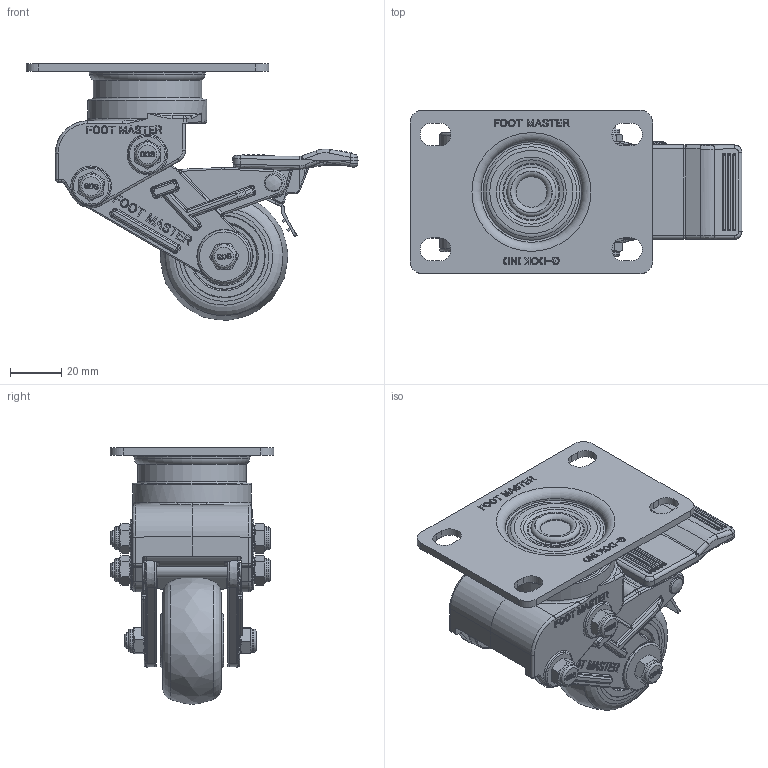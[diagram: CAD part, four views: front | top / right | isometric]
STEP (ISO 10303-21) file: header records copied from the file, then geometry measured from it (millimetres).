
FILE_DESCRIPTION(/* description */ (''),/* implementation_level */ '2;1');
FILE_NAME(/* name */ 'C:\Users\admin\Desktop\JYS\개발품\상세설계_20220328\홈페이지용 도면\GDS-50-BRF-EUS-PUS.stp',/* time_stamp */ '2023-03-08T15:50:08+09:00',/* author */ ('admin'),/* organization */ (''),/* preprocessor_version */ 'ST-DEVELOPER v18.1',/* originating_system */ 'Autodesk Inventor 2021',/* authorisation */ '');
FILE_SCHEMA (('AUTOMOTIVE_DESIGN { 1 0 10303 214 3 1 1 }'));
Products named in the file (1): GDS-50_BRF_(US)_REV01_Shrinkwrap_1
Bounding box: 129.93 x 64 x 100.48 mm (x, y, z)
Volume: 144562.7 mm3; surface area: 62003.9 mm2
Topology: 1 solids, 1 shells, 2682 faces, 6915 edges, 4335 vertices
Faces by surface type: plane 935, bspline 836, cylinder 544, cone 162, torus 153, sphere 52
Full cylindrical faces by diameter (mm): 2 x1, 4 x3, 6 x5, 7 x2, 8.8 x3, 9 x6, 12 x1, 17.216 x2, 18 x1, 19.3 x1, 20 x2, 22 x2, 22.784 x2, 42.5 x1, 46.5 x1
Entity records: 93595 total; most frequent: CARTESIAN_POINT 30027, ORIENTED_EDGE 13754, DIRECTION 10911, EDGE_CURVE 6877, VERTEX_POINT 4335, AXIS2_PLACEMENT_3D 3833, LINE 3245, VECTOR 3245
